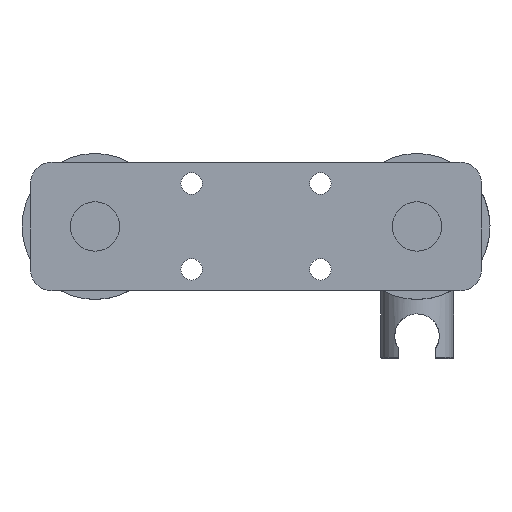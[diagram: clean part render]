
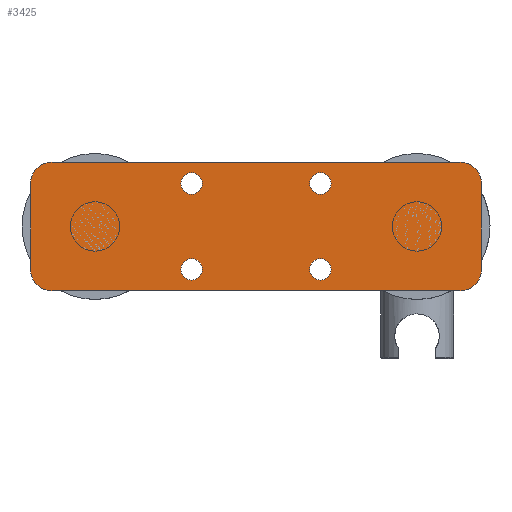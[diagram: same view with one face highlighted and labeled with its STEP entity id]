
A CAD part, front view. The second image highlights one B-rep face of the part: STEP entity #3425.
In plain terms, the highlighted planar face has unit normal (0, -1, 0).
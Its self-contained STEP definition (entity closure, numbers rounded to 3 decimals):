
#287=FACE_BOUND('',#584,.T.);
#288=FACE_BOUND('',#585,.T.);
#289=FACE_BOUND('',#586,.T.);
#290=FACE_BOUND('',#587,.T.);
#311=PLANE('',#3680);
#369=FACE_OUTER_BOUND('',#583,.T.);
#583=EDGE_LOOP('',(#2262,#2263,#2264,#2265,#2266,#2267,#2268,#2269));
#584=EDGE_LOOP('',(#2270));
#585=EDGE_LOOP('',(#2271));
#586=EDGE_LOOP('',(#2272));
#587=EDGE_LOOP('',(#2273));
#803=LINE('',#5035,#945);
#808=LINE('',#5049,#950);
#812=LINE('',#5061,#954);
#816=LINE('',#5073,#958);
#945=VECTOR('',#4087,10.);
#950=VECTOR('',#4100,10.);
#954=VECTOR('',#4112,10.);
#958=VECTOR('',#4124,10.);
#1084=CIRCLE('',#3653,50.);
#1086=CIRCLE('',#3656,50.);
#1088=CIRCLE('',#3659,50.);
#1090=CIRCLE('',#3662,50.);
#1091=CIRCLE('',#3665,100.);
#1093=CIRCLE('',#3669,100.);
#1095=CIRCLE('',#3673,100.);
#1097=CIRCLE('',#3677,100.);
#1286=VERTEX_POINT('',#5011);
#1288=VERTEX_POINT('',#5017);
#1290=VERTEX_POINT('',#5023);
#1292=VERTEX_POINT('',#5029);
#1293=VERTEX_POINT('',#5033);
#1294=VERTEX_POINT('',#5034);
#1297=VERTEX_POINT('',#5042);
#1299=VERTEX_POINT('',#5048);
#1301=VERTEX_POINT('',#5054);
#1303=VERTEX_POINT('',#5060);
#1305=VERTEX_POINT('',#5066);
#1307=VERTEX_POINT('',#5072);
#1660=EDGE_CURVE('',#1286,#1286,#1084,.T.);
#1663=EDGE_CURVE('',#1288,#1288,#1086,.T.);
#1666=EDGE_CURVE('',#1290,#1290,#1088,.T.);
#1669=EDGE_CURVE('',#1292,#1292,#1090,.T.);
#1670=EDGE_CURVE('',#1293,#1294,#803,.T.);
#1674=EDGE_CURVE('',#1297,#1294,#1091,.T.);
#1677=EDGE_CURVE('',#1297,#1299,#808,.T.);
#1680=EDGE_CURVE('',#1301,#1299,#1093,.T.);
#1683=EDGE_CURVE('',#1301,#1303,#812,.T.);
#1686=EDGE_CURVE('',#1305,#1303,#1095,.T.);
#1689=EDGE_CURVE('',#1307,#1305,#816,.T.);
#1692=EDGE_CURVE('',#1293,#1307,#1097,.T.);
#2262=ORIENTED_EDGE('',*,*,#1692,.F.);
#2263=ORIENTED_EDGE('',*,*,#1670,.T.);
#2264=ORIENTED_EDGE('',*,*,#1674,.F.);
#2265=ORIENTED_EDGE('',*,*,#1677,.T.);
#2266=ORIENTED_EDGE('',*,*,#1680,.F.);
#2267=ORIENTED_EDGE('',*,*,#1683,.T.);
#2268=ORIENTED_EDGE('',*,*,#1686,.F.);
#2269=ORIENTED_EDGE('',*,*,#1689,.F.);
#2270=ORIENTED_EDGE('',*,*,#1660,.T.);
#2271=ORIENTED_EDGE('',*,*,#1663,.T.);
#2272=ORIENTED_EDGE('',*,*,#1666,.T.);
#2273=ORIENTED_EDGE('',*,*,#1669,.T.);
#3425=ADVANCED_FACE('',(#369,#287,#288,#289,#290),#311,.F.);
#3653=AXIS2_PLACEMENT_3D('',#5013,#4062,#4063);
#3656=AXIS2_PLACEMENT_3D('',#5019,#4069,#4070);
#3659=AXIS2_PLACEMENT_3D('',#5025,#4076,#4077);
#3662=AXIS2_PLACEMENT_3D('',#5031,#4083,#4084);
#3665=AXIS2_PLACEMENT_3D('',#5043,#4093,#4094);
#3669=AXIS2_PLACEMENT_3D('',#5055,#4105,#4106);
#3673=AXIS2_PLACEMENT_3D('',#5067,#4117,#4118);
#3677=AXIS2_PLACEMENT_3D('',#5078,#4129,#4130);
#3680=AXIS2_PLACEMENT_3D('',#5081,#4135,#4136);
#4062=DIRECTION('center_axis',(0.,1.,0.));
#4063=DIRECTION('ref_axis',(-1.,0.,0.));
#4069=DIRECTION('center_axis',(0.,1.,0.));
#4070=DIRECTION('ref_axis',(-1.,0.,0.));
#4076=DIRECTION('center_axis',(0.,1.,0.));
#4077=DIRECTION('ref_axis',(-1.,0.,0.));
#4083=DIRECTION('center_axis',(0.,1.,0.));
#4084=DIRECTION('ref_axis',(-1.,0.,0.));
#4087=DIRECTION('',(1.,0.,0.));
#4093=DIRECTION('center_axis',(0.,1.,0.));
#4094=DIRECTION('ref_axis',(1.,0.,0.));
#4100=DIRECTION('',(0.,0.,1.));
#4105=DIRECTION('center_axis',(0.,1.,0.));
#4106=DIRECTION('ref_axis',(0.,0.,1.));
#4112=DIRECTION('',(-1.,0.,0.));
#4117=DIRECTION('center_axis',(0.,1.,0.));
#4118=DIRECTION('ref_axis',(-1.,0.,0.));
#4124=DIRECTION('',(0.,0.,1.));
#4129=DIRECTION('center_axis',(0.,1.,0.));
#4130=DIRECTION('ref_axis',(0.,0.,-1.));
#4135=DIRECTION('center_axis',(0.,1.,0.));
#4136=DIRECTION('ref_axis',(1.,0.,0.));
#5011=CARTESIAN_POINT('',(-78.205,0.,-200.));
#5013=CARTESIAN_POINT('Origin',(-128.205,0.,-200.));
#5017=CARTESIAN_POINT('',(-678.205,0.,-200.));
#5019=CARTESIAN_POINT('Origin',(-728.205,0.,-200.));
#5023=CARTESIAN_POINT('',(-78.205,0.,200.));
#5025=CARTESIAN_POINT('Origin',(-128.205,0.,200.));
#5029=CARTESIAN_POINT('',(-678.205,0.,200.));
#5031=CARTESIAN_POINT('Origin',(-728.205,0.,200.));
#5033=CARTESIAN_POINT('',(-1378.205,0.,-300.));
#5034=CARTESIAN_POINT('',(521.795,0.,-300.));
#5035=CARTESIAN_POINT('',(-1378.205,0.,-300.));
#5042=CARTESIAN_POINT('',(621.795,0.,-200.));
#5043=CARTESIAN_POINT('Origin',(521.795,0.,-200.));
#5048=CARTESIAN_POINT('',(621.795,0.,200.));
#5049=CARTESIAN_POINT('',(621.795,0.,-200.));
#5054=CARTESIAN_POINT('',(521.795,0.,300.));
#5055=CARTESIAN_POINT('Origin',(521.795,0.,200.));
#5060=CARTESIAN_POINT('',(-1378.205,0.,300.));
#5061=CARTESIAN_POINT('',(521.795,0.,300.));
#5066=CARTESIAN_POINT('',(-1478.205,0.,200.));
#5067=CARTESIAN_POINT('Origin',(-1378.205,0.,200.));
#5072=CARTESIAN_POINT('',(-1478.205,0.,-200.));
#5073=CARTESIAN_POINT('',(-1478.205,0.,-200.));
#5078=CARTESIAN_POINT('Origin',(-1378.205,0.,-200.));
#5081=CARTESIAN_POINT('Origin',(-428.205,0.,0.));
